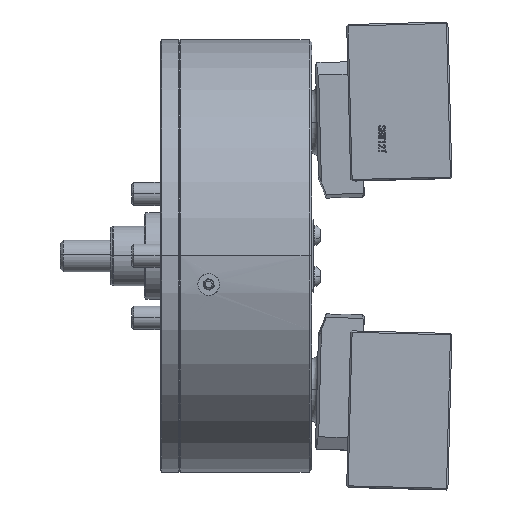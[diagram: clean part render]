
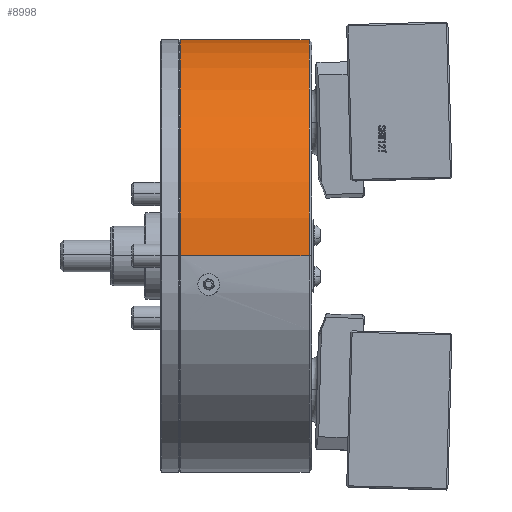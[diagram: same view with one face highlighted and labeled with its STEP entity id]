
A CAD part, top view. The second image highlights one B-rep face of the part: STEP entity #8998.
In plain terms, the highlighted cylindrical face has radius 150 mm (diameter 300 mm), a partial arc.
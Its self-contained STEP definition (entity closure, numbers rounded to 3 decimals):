
#782 = AXIS2_PLACEMENT_3D ( 'NONE', #7424, #7366, #7532 ) ;
#1220 = CARTESIAN_POINT ( 'NONE',  ( -91.2, 0., -150. ) ) ;
#3394 = DIRECTION ( 'NONE',  ( 1., 0., 0. ) ) ;
#7366 = DIRECTION ( 'NONE',  ( 1., 0., 0. ) ) ;
#7424 = CARTESIAN_POINT ( 'NONE',  ( 9.899, 0., 0. ) ) ;
#7532 = DIRECTION ( 'NONE',  ( 0., 0., -1. ) ) ;
#8054 = EDGE_CURVE ( 'NONE', #9747, #15739, #21711, .T. ) ;
#8683 = EDGE_CURVE ( 'NONE', #9747, #23434, #29301, .T. ) ;
#8840 = CIRCLE ( 'NONE', #46409, 150. ) ;
#8998 = ADVANCED_FACE ( 'NONE', ( #27503 ), #26298, .T. ) ;
#9747 = VERTEX_POINT ( 'NONE', #1220 ) ;
#10452 = ORIENTED_EDGE ( 'NONE', *, *, #8054, .F. ) ;
#11507 = CARTESIAN_POINT ( 'NONE',  ( -2., 0., 0. ) ) ;
#11562 = LINE ( 'NONE', #48457, #19268 ) ;
#11659 = VECTOR ( 'NONE', #31879, 1000. ) ;
#14346 = DIRECTION ( 'NONE',  ( 0., 0., -1. ) ) ;
#14385 = DIRECTION ( 'NONE',  ( 1., 0., 0. ) ) ;
#14395 = CARTESIAN_POINT ( 'NONE',  ( -91.2, 0., 0. ) ) ;
#15325 = DIRECTION ( 'NONE',  ( 0., 0., -1. ) ) ;
#15739 = VERTEX_POINT ( 'NONE', #33970 ) ;
#19268 = VECTOR ( 'NONE', #3394, 1000. ) ;
#21711 = LINE ( 'NONE', #30673, #11659 ) ;
#22328 = ORIENTED_EDGE ( 'NONE', *, *, #8683, .T. ) ;
#23434 = VERTEX_POINT ( 'NONE', #23553 ) ;
#23553 = CARTESIAN_POINT ( 'NONE',  ( -91.2, 0., 150. ) ) ;
#26298 = CYLINDRICAL_SURFACE ( 'NONE', #782, 150. ) ;
#27503 = FACE_OUTER_BOUND ( 'NONE', #40761, .T. ) ;
#27900 = AXIS2_PLACEMENT_3D ( 'NONE', #14395, #14385, #14346 ) ;
#29301 = CIRCLE ( 'NONE', #27900, 150. ) ;
#30673 = CARTESIAN_POINT ( 'NONE',  ( 9.899, 0., -150. ) ) ;
#31879 = DIRECTION ( 'NONE',  ( 1., 0., 0. ) ) ;
#33970 = CARTESIAN_POINT ( 'NONE',  ( -2., 0., -150. ) ) ;
#37332 = EDGE_CURVE ( 'NONE', #15739, #48193, #8840, .T. ) ;
#37839 = DIRECTION ( 'NONE',  ( 1., 0., 0. ) ) ;
#39625 = CARTESIAN_POINT ( 'NONE',  ( -2., 0., 150. ) ) ;
#40761 = EDGE_LOOP ( 'NONE', ( #22328, #47345, #41993, #10452 ) ) ;
#41993 = ORIENTED_EDGE ( 'NONE', *, *, #37332, .F. ) ;
#45894 = EDGE_CURVE ( 'NONE', #23434, #48193, #11562, .T. ) ;
#46409 = AXIS2_PLACEMENT_3D ( 'NONE', #11507, #37839, #15325 ) ;
#47345 = ORIENTED_EDGE ( 'NONE', *, *, #45894, .T. ) ;
#48193 = VERTEX_POINT ( 'NONE', #39625 ) ;
#48457 = CARTESIAN_POINT ( 'NONE',  ( 9.899, 0., 150. ) ) ;
